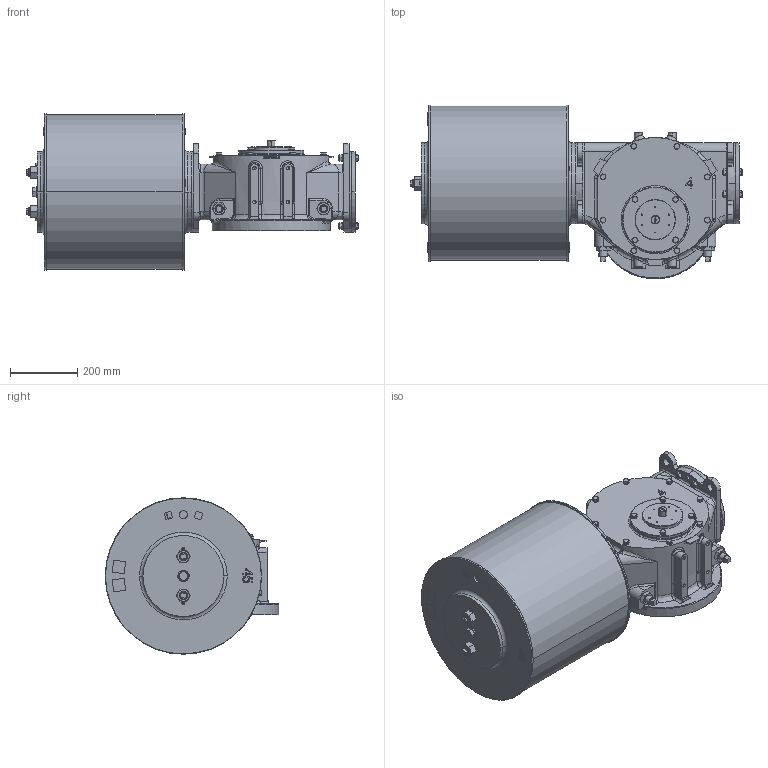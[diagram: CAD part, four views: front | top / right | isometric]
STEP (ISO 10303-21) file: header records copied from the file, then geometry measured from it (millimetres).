
FILE_DESCRIPTION (( 'STEP AP203' ), '1' );
FILE_NAME ('VTS4-450.STEP', '2023-01-01T09:31:42', ( '' ), ( '' ), 'SwSTEP 2.0', 'SolidWorks 2020', '' );
FILE_SCHEMA (( 'CONFIG_CONTROL_DESIGN' ));
Length unit declared in the file: millimetre
Products named in the file (1): VTS4-450
Bounding box: 984.68 x 515 x 464 mm (x, y, z)
Volume: 99425613.9 mm3; surface area: 1987203.3 mm2
Topology: 3 solids, 6 shells, 1558 faces, 3990 edges, 2510 vertices
Faces by surface type: plane 689, cylinder 457, cone 310, bspline 94, torus 8
Entity records: 59269 total; most frequent: CARTESIAN_POINT 22265, ORIENTED_EDGE 7856, DIRECTION 7590, EDGE_CURVE 3928, AXIS2_PLACEMENT_3D 2923, VERTEX_POINT 2510, EDGE_LOOP 1750, LINE 1744
